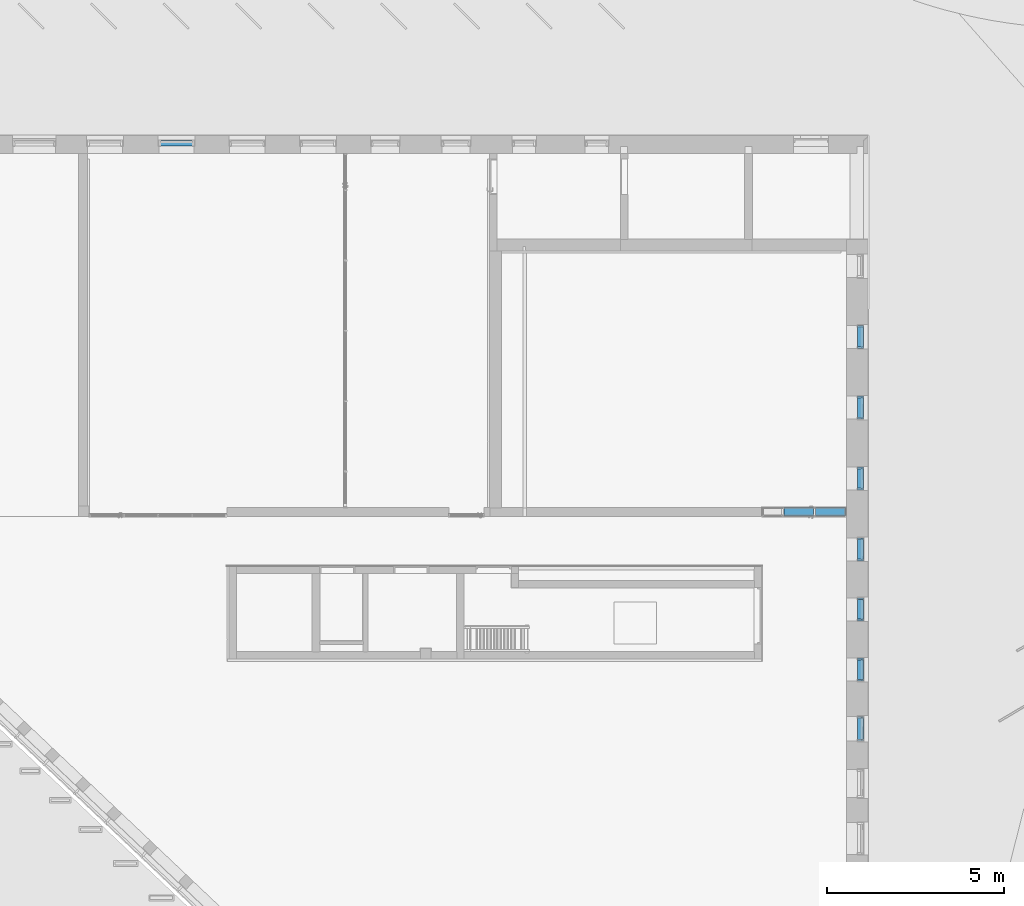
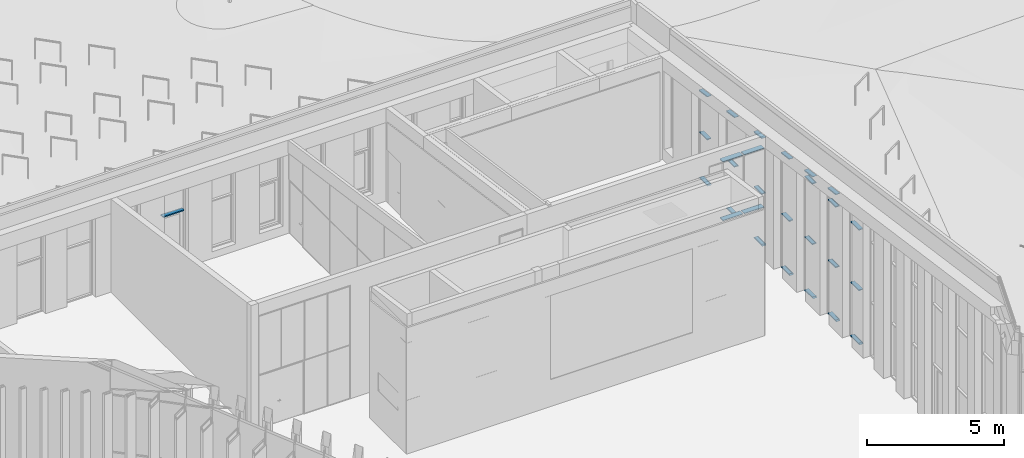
# One storey, part 37 of 246: 28 members, 9 elements without a shape of their own.
"""IFC2X3 building model written with IfcOpenShell, lengths in millimetres."""

from ifc_helpers import new_model, entity, si_unit, converted_unit, derived_unit, money_unit, direction, frame, origin_with_axes, place, context, subcontext, project, spatial, faceted_brep, source, transform, mapped, material, material_list, type_object, element, aggregate, save


model = new_model("IFC2X3")

# Units and contexts
model_context = context("Model", 3, precision=0.01, world=origin_with_axes(), true_north=direction((0.0, 1.0)))
body_context = subcontext(model_context, "Body", "Model", "MODEL_VIEW")
ifc_project = project(units=[si_unit("LENGTHUNIT", "METRE", prefix="MILLI"), si_unit("AREAUNIT", "SQUARE_METRE"), si_unit("VOLUMEUNIT", "CUBIC_METRE"), converted_unit("PLANEANGLEUNIT", "DEGREE", entity("IfcPlaneAngleMeasure", 0.0174532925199), si_unit("PLANEANGLEUNIT", "RADIAN"), dimensions=[0, 0, 0, 0, 0, 0, 0]), si_unit("SOLIDANGLEUNIT", "STERADIAN"), money_unit("EUR"), converted_unit("TIMEUNIT", "Year", entity("IfcTimeMeasure", 31556926.0), si_unit("TIMEUNIT", "SECOND"), dimensions=[0, 0, 1, 0, 0, 0, 0]), si_unit("MASSUNIT", "GRAM", prefix="KILO"), si_unit("THERMODYNAMICTEMPERATUREUNIT", "DEGREE_CELSIUS"), si_unit("LUMINOUSINTENSITYUNIT", "LUMEN"), si_unit("ENERGYUNIT", "JOULE", prefix="MEGA"), derived_unit("THERMALCONDUCTANCEUNIT", [(si_unit("POWERUNIT", "WATT"), 1), (si_unit("LENGTHUNIT", "METRE"), -1), (si_unit("THERMODYNAMICTEMPERATUREUNIT", "KELVIN"), -1)]), derived_unit("SPECIFICHEATCAPACITYUNIT", [(si_unit("ENERGYUNIT", "JOULE"), 1), (si_unit("MASSUNIT", "GRAM", prefix="KILO"), -1), (si_unit("THERMODYNAMICTEMPERATUREUNIT", "KELVIN"), -1)]), derived_unit("MASSDENSITYUNIT", [(si_unit("MASSUNIT", "GRAM", prefix="KILO"), 1), (si_unit("VOLUMEUNIT", "CUBIC_METRE"), -1)])], contexts=[model_context])

# Site, building, storey
site_placement = place(None, origin_with_axes())
site = spatial("IfcSite", under=ifc_project, at=site_placement, Name="L.Koidula tn 11b", CompositionType="ELEMENT")
building_placement = place(site_placement, origin_with_axes())
building = spatial("IfcBuilding", under=site, at=building_placement, Name="Rakvere Riigigümnaasium", CompositionType="ELEMENT")
storey_placement = place(building_placement, origin_with_axes())
storey = spatial("IfcBuildingStorey", under=building, at=storey_placement, Name="1.korrus 0,00", CompositionType="ELEMENT", Elevation=0.0)

# Curtain wall, members
curtain_wall_type = type_object("IfcCurtainWallType", Name="Curtain Wall Type", PredefinedType="NOTDEFINED")
curtain_wall_1_placement = place(storey_placement, frame((47433.9999935, 57020.45466, -7.96066081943e-05), z_axis=(0.0, 0.0, 1.0), x_axis=(1.0, 0.0, 0.0)))
curtain_wall_1 = element("IfcCurtainWall", 1, at=curtain_wall_1_placement, inside=storey, type_object=curtain_wall_type, Name="KLF-07-08")
ifc_material_1 = material(Name="Alumiiniumprofiil (RAL 7021)")
member_type_1 = type_object("IfcMemberType", Name="Transom Frame 50 x 170", PredefinedType="MULLION")
shared_shape_1 = source(origin_with_axes(), body_context, "Body", "Brep", [
    faceted_brep([(12.0, -26.0, 599.999961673), (12.0, 26.0, 599.999961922), (25.0, 26.0, 599.999961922), (25.0, 46.0, 599.999962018), (-25.0, 46.0, 599.999962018), (-25.0, 26.0, 599.999961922), (-12.0, 26.0, 599.999961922), (-12.0, -26.0, 599.999961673), (-25.0, -26.0, 599.999961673), (-25.0, -124.0, 599.999961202), (25.0, -124.0, 599.999961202), (25.0, -26.0, 599.999961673), (12.0, -26.0, 50.0), (12.0, 26.0, 50.0), (25.0, 26.0, 50.0), (25.0, 46.0, 50.0), (-25.0, 46.0, 50.0), (-25.0, 26.0, 50.0), (-12.0, 26.0, 50.0), (-12.0, -26.0, 50.0), (-25.0, -26.0, 50.0), (-25.0, -124.0, 50.0), (25.0, -124.0, 50.0), (25.0, -26.0, 50.0)], [[[0, 1, 2, 3, 4, 5, 6, 7, 8, 9, 10, 11]], [[0, 12, 13, 1]], [[1, 13, 14, 2]], [[14, 15, 3, 2]], [[4, 3, 15, 16]], [[17, 5, 4, 16]], [[5, 17, 18, 6]], [[7, 6, 18, 19]], [[8, 7, 19, 20]], [[8, 20, 21, 9]], [[10, 9, 21, 22]], [[11, 10, 22, 23]], [[11, 23, 12, 0]], [[13, 12, 23, 22, 21, 20, 19, 18, 17, 16, 15, 14]]]),
])
member_1_placement = place(curtain_wall_1_placement, frame((0.0, 324.999985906, 5100.00007961), z_axis=(0.0, -1.0, 0.0), x_axis=(0.0, 0.0, 1.0)))
member_1 = element("IfcMember", 2, at=member_1_placement, type_object=member_type_1, material=ifc_material_1, Name="KLF-07-32-Profiilid", ObjectType="MULLION", context=body_context, shape_type="MappedRepresentation", body=[
    mapped(shared_shape_1, transform((0.0, 0.0, 0.0), x_axis=(-1.0, 0.0, 0.0), y_axis=(0.0, -1.0, 0.0), z_axis=(0.0, 0.0, 1.0))),
])
member_2_placement = place(curtain_wall_1_placement, frame((0.0, 324.999985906, 2400.00007961), z_axis=(0.0, -1.0, 0.0), x_axis=(0.0, 0.0, 1.0)))
member_2 = element("IfcMember", 3, at=member_2_placement, type_object=member_type_1, material=ifc_material_1, Name="KLF-07-33-Profiilid", ObjectType="MULLION", context=body_context, shape_type="MappedRepresentation", body=[
    mapped(shared_shape_1, transform((0.0, 0.0, 0.0), x_axis=(-1.0, 0.0, 0.0), y_axis=(0.0, -1.0, 0.0), z_axis=(0.0, 0.0, 1.0))),
])

curtain_wall_2_placement = place(storey_placement, frame((47433.9999935, 58720.4546292, -7.96830551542e-05), z_axis=(0.0, 0.0, 1.0), x_axis=(1.0, 0.0, 0.0)))
curtain_wall_2 = element("IfcCurtainWall", 4, at=curtain_wall_2_placement, inside=storey, type_object=curtain_wall_type, Name="KLF-07-09")
member_3_placement = place(curtain_wall_2_placement, frame((0.0, 325.00004233, 5100.00007968), z_axis=(0.0, -1.0, 0.0), x_axis=(0.0, 0.0, 1.0)))
member_3 = element("IfcMember", 5, at=member_3_placement, type_object=member_type_1, material=ifc_material_1, Name="KLF-07-23_Profiilid", ObjectType="MULLION", context=body_context, shape_type="MappedRepresentation", body=[
    mapped(shared_shape_1, transform((0.0, 0.0, 0.0), x_axis=(-1.0, 0.0, 0.0), y_axis=(0.0, -1.0, 0.0), z_axis=(0.0, 0.0, 1.0))),
])
member_4_placement = place(curtain_wall_2_placement, frame((0.0, 325.00004233, 2400.00007968), z_axis=(0.0, -1.0, 0.0), x_axis=(0.0, 0.0, 1.0)))
member_4 = element("IfcMember", 6, at=member_4_placement, type_object=member_type_1, material=ifc_material_1, Name="KLF-07-24_Profiilid", ObjectType="MULLION", context=body_context, shape_type="MappedRepresentation", body=[
    mapped(shared_shape_1, transform((0.0, 0.0, 0.0), x_axis=(-1.0, 0.0, 0.0), y_axis=(0.0, -1.0, 0.0), z_axis=(0.0, 0.0, 1.0))),
])

# Curtain wall, member
curtain_wall_3_placement = place(storey_placement, frame((47434.0004775, 60420.4546099, 0.0), z_axis=(0.0, 0.0, 1.0), x_axis=(1.0, 0.0, 0.0)))
curtain_wall_3 = element("IfcCurtainWall", 7, at=curtain_wall_3_placement, inside=storey, type_object=curtain_wall_type, Name="KLF-07-10")
member_5_placement = place(curtain_wall_3_placement, frame((0.0, 325.000019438, 2400.0), z_axis=(0.0, -1.0, 0.0), x_axis=(0.0, 0.0, 1.0)))
member_5 = element("IfcMember", 8, at=member_5_placement, type_object=member_type_1, material=ifc_material_1, Name="KLF-07-20-Profiilid", ObjectType="MULLION", context=body_context, shape_type="MappedRepresentation", body=[
    mapped(shared_shape_1, transform((0.0, 0.0, 0.0), x_axis=(-1.0, 0.0, 0.0), y_axis=(0.0, -1.0, 0.0), z_axis=(0.0, 0.0, 1.0))),
])

curtain_wall_4_placement = place(storey_placement, frame((47433.9999935, 62420.4545024, 99.9999847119), z_axis=(0.0, 0.0, 1.0), x_axis=(1.0, 0.0, 0.0)))
curtain_wall_4 = element("IfcCurtainWall", 9, at=curtain_wall_4_placement, inside=storey, type_object=curtain_wall_type, Name="KLF-07-11")
member_6_placement = place(curtain_wall_4_placement, frame((0.0, 325.000174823, 2300.00001529), z_axis=(0.0, -1.0, 0.0), x_axis=(0.0, 0.0, 1.0)))
member_6 = element("IfcMember", 10, at=member_6_placement, type_object=member_type_1, material=ifc_material_1, Name="KLF-07-21-Profiilid", ObjectType="MULLION", context=body_context, shape_type="MappedRepresentation", body=[
    mapped(shared_shape_1, transform((0.0, 0.0, 0.0), x_axis=(-1.0, 0.0, 0.0), y_axis=(0.0, -1.0, 0.0), z_axis=(0.0, 0.0, 1.0))),
])

curtain_wall_5_placement = place(storey_placement, frame((47433.9999935, 64420.454563, 200.0), z_axis=(0.0, 0.0, 1.0), x_axis=(1.0, 0.0, 0.0)))
curtain_wall_5 = element("IfcCurtainWall", 11, at=curtain_wall_5_placement, inside=storey, type_object=curtain_wall_type, Name="KLF-07-12")
member_7_placement = place(curtain_wall_5_placement, frame((0.0, 325.000196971, 2200.0), z_axis=(0.0, -1.0, 0.0), x_axis=(0.0, 0.0, 1.0)))
member_7 = element("IfcMember", 12, at=member_7_placement, type_object=member_type_1, material=ifc_material_1, Name="KLF-07-29-Profiilid", ObjectType="MULLION", context=body_context, shape_type="MappedRepresentation", body=[
    mapped(shared_shape_1, transform((0.0, 0.0, 0.0), x_axis=(-1.0, 0.0, 0.0), y_axis=(0.0, -1.0, 0.0), z_axis=(0.0, 0.0, 1.0))),
])

curtain_wall_6_placement = place(storey_placement, frame((47433.9999935, 66420.454682, 350.000073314), z_axis=(0.0, 0.0, 1.0), x_axis=(1.0, 0.0, 0.0)))
curtain_wall_6 = element("IfcCurtainWall", 13, at=curtain_wall_6_placement, inside=storey, type_object=curtain_wall_type, Name="KLF-07-13")
member_8_placement = place(curtain_wall_6_placement, frame((0.0, 325.000051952, 2049.99992669), z_axis=(0.0, -1.0, 0.0), x_axis=(0.0, 0.0, 1.0)))
member_8 = element("IfcMember", 14, at=member_8_placement, type_object=member_type_1, material=ifc_material_1, Name="KLF-07-30-Profiilid", ObjectType="MULLION", context=body_context, shape_type="MappedRepresentation", body=[
    mapped(shared_shape_1, transform((0.0, 0.0, 0.0), x_axis=(-1.0, 0.0, 0.0), y_axis=(0.0, -1.0, 0.0), z_axis=(0.0, 0.0, 1.0))),
])

# Curtain wall, members
curtain_wall_7_placement = place(storey_placement, frame((47433.9999935, 55350.4459233, 0.0), z_axis=(0.0, 0.0, 1.0), x_axis=(1.0, 0.0, 0.0)))
curtain_wall_7 = element("IfcCurtainWall", 15, at=curtain_wall_7_placement, inside=storey, type_object=curtain_wall_type, Name="KLF-07-07")
shared_shape_2 = source(origin_with_axes(), body_context, "Body", "Brep", [
    faceted_brep([(12.0, -26.0, 650.000041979), (12.0, 26.0, 650.000042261), (25.0, 26.0, 650.000042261), (25.0, 46.0, 650.00004237), (-25.0, 46.0, 650.00004237), (-25.0, 26.0, 650.000042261), (-12.0, 26.0, 650.000042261), (-12.0, -26.0, 650.000041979), (-25.0, -26.0, 650.000041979), (-25.0, -124.0, 650.000041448), (25.0, -124.0, 650.000041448), (25.0, -26.0, 650.000041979), (12.0, -26.0, 50.0), (12.0, 26.0, 50.0), (25.0, 26.0, 50.0), (25.0, 46.0, 50.0), (-25.0, 46.0, 50.0), (-25.0, 26.0, 50.0), (-12.0, 26.0, 50.0), (-12.0, -26.0, 50.0), (-25.0, -26.0, 50.0), (-25.0, -124.0, 50.0), (25.0, -124.0, 50.0), (25.0, -26.0, 50.0)], [[[0, 1, 2, 3, 4, 5, 6, 7, 8, 9, 10, 11]], [[0, 12, 13, 1]], [[1, 13, 14, 2]], [[14, 15, 3, 2]], [[4, 3, 15, 16]], [[17, 5, 4, 16]], [[5, 17, 18, 6]], [[7, 6, 18, 19]], [[8, 7, 19, 20]], [[8, 20, 21, 9]], [[10, 9, 21, 22]], [[11, 10, 22, 23]], [[11, 23, 12, 0]], [[13, 12, 23, 22, 21, 20, 19, 18, 17, 16, 15, 14]]]),
])
member_9_placement = place(curtain_wall_7_placement, frame((0.0, 350.000036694, 5100.0), z_axis=(0.0, -1.0, 0.0), x_axis=(0.0, 0.0, 1.0)))
member_9 = element("IfcMember", 16, at=member_9_placement, type_object=member_type_1, material=ifc_material_1, Name="KLF-07-31-Profiilid", ObjectType="MULLION", context=body_context, shape_type="MappedRepresentation", body=[
    mapped(shared_shape_2, transform((0.0, 0.0, 0.0), x_axis=(-1.0, 0.0, 0.0), y_axis=(0.0, -1.0, 0.0), z_axis=(0.0, 0.0, 1.0))),
])
member_10_placement = place(curtain_wall_7_placement, frame((0.0, 350.000036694, 2400.0), z_axis=(0.0, -1.0, 0.0), x_axis=(0.0, 0.0, 1.0)))
member_10 = element("IfcMember", 17, at=member_10_placement, type_object=member_type_1, material=ifc_material_1, Name="KLF-07-32-Profiilid", ObjectType="MULLION", context=body_context, shape_type="MappedRepresentation", body=[
    mapped(shared_shape_2, transform((0.0, 0.0, 0.0), x_axis=(-1.0, 0.0, 0.0), y_axis=(0.0, -1.0, 0.0), z_axis=(0.0, 0.0, 1.0))),
])

# Member
member_type_2 = type_object("IfcMemberType", Name="Boundary Frame 50 x 170", PredefinedType="MULLION")
shared_shape_3 = source(origin_with_axes(), body_context, "Body", "Brep", [
    faceted_brep([(-37.0, -26.0, 612.999970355), (-50.0, -26.0, 599.999970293), (-50.0, -124.0, 599.999970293), (0.0, -124.0, 649.999970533), (0.0, 46.0, 649.999970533), (-50.0, 46.0, 599.999970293), (-50.0, 26.0, 599.999970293), (-37.0, 26.0, 612.999970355), (-37.0, -26.0, 37.0), (-50.0, -26.0, 50.0), (-50.0, -124.0, 50.0), (0.0, -124.0, 0.0), (0.0, 46.0, 0.0), (-50.0, 46.0, 50.0), (-50.0, 26.0, 50.0), (-37.0, 26.0, 37.0)], [[[0, 1, 2, 3, 4, 5, 6, 7]], [[0, 8, 9, 1]], [[9, 10, 2, 1]], [[2, 10, 11, 3]], [[3, 11, 12, 4]], [[4, 12, 13, 5]], [[6, 5, 13, 14]], [[14, 15, 7, 6]], [[7, 15, 8, 0]], [[8, 15, 14, 13, 12, 11, 10, 9]]]),
])
member_11_placement = place(curtain_wall_1_placement, frame((0.0, 324.999985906, 0.0), z_axis=(0.0, -1.0, 0.0), x_axis=(0.0, 0.0, 1.0)))
member_11 = element("IfcMember", 18, at=member_11_placement, type_object=member_type_2, material=ifc_material_1, Name="KLF-07-76-Profiilid", ObjectType="MULLION", context=body_context, shape_type="MappedRepresentation", body=[
    mapped(shared_shape_3, transform((0.0, 0.0, 0.0), x_axis=(-1.0, 0.0, 0.0), y_axis=(0.0, -1.0, 0.0), z_axis=(0.0, 0.0, 1.0))),
])

member_12_placement = place(curtain_wall_2_placement, frame((0.0, 325.00004233, 0.0), z_axis=(0.0, -1.0, 0.0), x_axis=(0.0, 0.0, 1.0)))
member_12 = element("IfcMember", 19, at=member_12_placement, type_object=member_type_2, material=ifc_material_1, Name="KLF-07-77_Profiilid", ObjectType="MULLION", context=body_context, shape_type="MappedRepresentation", body=[
    mapped(shared_shape_3, transform((0.0, 0.0, 0.0), x_axis=(-1.0, 0.0, 0.0), y_axis=(0.0, -1.0, 0.0), z_axis=(0.0, 0.0, 1.0))),
])

member_13_placement = place(curtain_wall_3_placement, frame((0.0, 325.000096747, 0.0), z_axis=(0.0, -1.0, 0.0), x_axis=(0.0, 0.0, 1.0)))
member_13 = element("IfcMember", 20, at=member_13_placement, type_object=member_type_2, material=ifc_material_1, Name="KLF-07-69-Profiilid", ObjectType="MULLION", context=body_context, shape_type="MappedRepresentation", body=[
    mapped(shared_shape_3, transform((0.0, 0.0, 0.0), x_axis=(-1.0, 0.0, 0.0), y_axis=(0.0, -1.0, 0.0), z_axis=(0.0, 0.0, 1.0))),
])

member_14_placement = place(curtain_wall_4_placement, frame((0.0, 325.000174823, 0.0), z_axis=(0.0, -1.0, 0.0), x_axis=(0.0, 0.0, 1.0)))
member_14 = element("IfcMember", 21, at=member_14_placement, type_object=member_type_2, material=ifc_material_1, Name="KLF-07-70-Profiilid", ObjectType="MULLION", context=body_context, shape_type="MappedRepresentation", body=[
    mapped(shared_shape_3, transform((0.0, 0.0, 0.0), x_axis=(-1.0, 0.0, 0.0), y_axis=(0.0, -1.0, 0.0), z_axis=(0.0, 0.0, 1.0))),
])

member_15_placement = place(curtain_wall_5_placement, frame((0.0, 325.000196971, 0.0), z_axis=(0.0, -1.0, 0.0), x_axis=(0.0, 0.0, 1.0)))
member_15 = element("IfcMember", 22, at=member_15_placement, type_object=member_type_2, material=ifc_material_1, Name="KLF-07-77-Profiilid", ObjectType="MULLION", context=body_context, shape_type="MappedRepresentation", body=[
    mapped(shared_shape_3, transform((0.0, 0.0, 0.0), x_axis=(-1.0, 0.0, 0.0), y_axis=(0.0, -1.0, 0.0), z_axis=(0.0, 0.0, 1.0))),
])

member_16_placement = place(curtain_wall_6_placement, frame((0.0, 325.000111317, -7.33137830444e-05), z_axis=(0.0, -1.0, 0.0), x_axis=(0.0, 0.0, 1.0)))
member_16 = element("IfcMember", 23, at=member_16_placement, type_object=member_type_2, material=ifc_material_1, Name="KLF-07-71-Profiilid", ObjectType="MULLION", context=body_context, shape_type="MappedRepresentation", body=[
    mapped(shared_shape_3, transform((0.0, 0.0, 0.0), x_axis=(-1.0, 0.0, 0.0), y_axis=(0.0, -1.0, 0.0), z_axis=(0.0, 0.0, 1.0))),
])

shared_shape_4 = source(origin_with_axes(), body_context, "Body", "Brep", [
    faceted_brep([(-37.0, -26.0, 663.000011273), (-50.0, -26.0, 650.000011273), (-50.0, -124.0, 650.000011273), (0.0, -124.0, 700.000011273), (0.0, 46.0, 700.000011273), (-50.0, 46.0, 650.000011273), (-50.0, 26.0, 650.000011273), (-37.0, 26.0, 663.000011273), (-37.0, -26.0, 37.0000013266), (-50.0, -26.0, 50.0000017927), (-50.0, -124.0, 50.0000017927), (0.0, -124.0, 0.0), (0.0, 46.0, 0.0), (-50.0, 46.0, 50.0000017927), (-50.0, 26.0, 50.0000017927), (-37.0, 26.0, 37.0000013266)], [[[0, 1, 2, 3, 4, 5, 6, 7]], [[0, 8, 9, 1]], [[9, 10, 2, 1]], [[2, 10, 11, 3]], [[3, 11, 12, 4]], [[4, 12, 13, 5]], [[6, 5, 13, 14]], [[14, 15, 7, 6]], [[7, 15, 8, 0]], [[8, 15, 14, 13, 12, 11, 10, 9]]]),
])
member_17_placement = place(curtain_wall_7_placement, frame((0.0, 350.000036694, 0.0), z_axis=(0.0, -1.0, 0.0), x_axis=(0.0, 0.0, 1.0)))
member_17 = element("IfcMember", 24, at=member_17_placement, type_object=member_type_2, material=ifc_material_1, Name="KLF-07-74-Profiilid", ObjectType="MULLION", context=body_context, shape_type="MappedRepresentation", body=[
    mapped(shared_shape_4, transform((0.0, 0.0, 0.0), x_axis=(-1.0, 0.0, 0.0), y_axis=(0.0, -1.0, 0.0), z_axis=(0.0, 0.0, 1.0))),
])

aggregate(curtain_wall_7, [member_9, member_10, member_17])

shared_shape_5 = source(origin_with_axes(), body_context, "Body", "Brep", [
    faceted_brep([(-37.0, -26.0, 624.449446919), (-50.0, -26.0, 613.169206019), (-50.0, -124.0, 613.169206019), (0.0, -124.0, 656.554747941), (0.0, 46.0, 656.554747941), (-50.0, 46.0, 613.169206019), (-50.0, 26.0, 613.169206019), (-37.0, 26.0, 624.449446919), (-37.0, -26.0, 42.640934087), (-50.0, -26.0, 57.6228839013), (-50.0, -124.0, 57.6228839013), (0.0, -124.0, 0.0), (0.0, 46.0, 0.0), (-50.0, 46.0, 57.6228839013), (-50.0, 26.0, 57.6228839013), (-37.0, 26.0, 42.640934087)], [[[0, 1, 2, 3, 4, 5, 6, 7]], [[0, 8, 9, 1]], [[9, 10, 2, 1]], [[2, 10, 11, 3]], [[3, 11, 12, 4]], [[4, 12, 13, 5]], [[6, 5, 13, 14]], [[14, 15, 7, 6]], [[7, 15, 8, 0]], [[8, 15, 14, 13, 12, 11, 10, 9]]]),
])
member_18_placement = place(curtain_wall_1_placement, frame((0.0, -324.999990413, 5696.05105915), z_axis=(0.0, 0.990016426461, -0.140952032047), x_axis=(0.0, -0.140952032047, -0.990016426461)))
member_18 = element("IfcMember", 25, at=member_18_placement, type_object=member_type_2, material=ifc_material_1, Name="KLF-07-80-Profiilid", ObjectType="MULLION", context=body_context, shape_type="MappedRepresentation", body=[
    mapped(shared_shape_5, transform((0.0, 0.0, 0.0), x_axis=(-1.0, 0.0, 0.0), y_axis=(0.0, -1.0, 0.0), z_axis=(0.0, 0.0, 1.0))),
])

aggregate(curtain_wall_1, [member_1, member_2, member_11, member_18])

member_19_placement = place(curtain_wall_2_placement, frame((0.0, -324.999958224, 5454.01620114), z_axis=(0.0, 0.990016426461, -0.140952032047), x_axis=(0.0, -0.140952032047, -0.990016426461)))
member_19 = element("IfcMember", 26, at=member_19_placement, type_object=member_type_2, material=ifc_material_1, Name="KLF-07-81_Profiilid", ObjectType="MULLION", context=body_context, shape_type="MappedRepresentation", body=[
    mapped(shared_shape_5, transform((0.0, 0.0, 0.0), x_axis=(-1.0, 0.0, 0.0), y_axis=(0.0, -1.0, 0.0), z_axis=(0.0, 0.0, 1.0))),
])

aggregate(curtain_wall_2, [member_3, member_4, member_12, member_19])

member_20_placement = place(curtain_wall_3_placement, frame((0.0, -325.000020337, 5211.98121766), z_axis=(0.0, 0.990016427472, -0.140952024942), x_axis=(0.0, -0.140952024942, -0.990016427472)))
member_20 = element("IfcMember", 27, at=member_20_placement, type_object=member_type_2, material=ifc_material_1, Name="KLF-07-72-Profiilid", ObjectType="MULLION", context=body_context, shape_type="MappedRepresentation", body=[
    mapped(shared_shape_5, transform((0.0, 0.0, 0.0), x_axis=(-1.0, 0.0, 0.0), y_axis=(0.0, -1.0, 0.0), z_axis=(0.0, 0.0, 1.0))),
])

aggregate(curtain_wall_3, [member_5, member_13, member_20])

member_21_placement = place(curtain_wall_6_placement, frame((0.0, -324.999940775, 4007.74026286), z_axis=(0.0, 0.99001642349, -0.140952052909), x_axis=(0.0, -0.140952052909, -0.99001642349)))
member_21 = element("IfcMember", 28, at=member_21_placement, type_object=member_type_2, material=ifc_material_1, Name="KLF-07-74-Profiilid", ObjectType="MULLION", context=body_context, shape_type="MappedRepresentation", body=[
    mapped(shared_shape_5, transform((0.0, 0.0, 0.0), x_axis=(-1.0, 0.0, 0.0), y_axis=(0.0, -1.0, 0.0), z_axis=(0.0, 0.0, 1.0))),
])

aggregate(curtain_wall_6, [member_8, member_16, member_21])

# Curtain wall, member
curtain_wall_8_placement = place(storey_placement, frame((28069.5354311, 71934.4519938, 200.0), z_axis=(0.0, 0.0, 1.0), x_axis=(1.0, 0.0, 0.0)))
curtain_wall_8 = element("IfcCurtainWall", 29, at=curtain_wall_8_placement, inside=storey, type_object=curtain_wall_type, Name="KLF-08-04")
shared_shape_6 = source(origin_with_axes(), body_context, "Body", "Brep", [
    faceted_brep([(12.0, -26.0, 949.999979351), (12.0, 26.0, 949.999981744), (25.0, 26.0, 949.999981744), (25.0, 46.0, 949.999982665), (-25.0, 46.0, 949.999982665), (-25.0, 26.0, 949.999981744), (-12.0, 26.0, 949.999981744), (-12.0, -26.0, 949.999979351), (-25.0, -26.0, 949.999979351), (-25.0, -124.0, 949.999974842), (25.0, -124.0, 949.999974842), (25.0, -26.0, 949.999979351), (12.0, -26.0, 50.0), (12.0, 26.0, 50.0), (25.0, 26.0, 50.0), (25.0, 46.0, 50.0), (-25.0, 46.0, 50.0), (-25.0, 26.0, 50.0), (-12.0, 26.0, 50.0), (-12.0, -26.0, 50.0), (-25.0, -26.0, 50.0), (-25.0, -124.0, 50.0), (25.0, -124.0, 50.0), (25.0, -26.0, 50.0)], [[[0, 1, 2, 3, 4, 5, 6, 7, 8, 9, 10, 11]], [[0, 12, 13, 1]], [[1, 13, 14, 2]], [[14, 15, 3, 2]], [[4, 3, 15, 16]], [[17, 5, 4, 16]], [[5, 17, 18, 6]], [[7, 6, 18, 19]], [[8, 7, 19, 20]], [[8, 20, 21, 9]], [[10, 9, 21, 22]], [[11, 10, 22, 23]], [[11, 23, 12, 0]], [[13, 12, 23, 22, 21, 20, 19, 18, 17, 16, 15, 14]]]),
])
member_22_placement = place(curtain_wall_8_placement, frame((-500.000022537, 0.0, 2200.00007713), z_axis=(1.0, 0.0, 0.0), x_axis=(0.0, 0.0, 1.0)))
member_22 = element("IfcMember", 30, at=member_22_placement, type_object=member_type_1, material=ifc_material_1, Name="KLF-08-43-Profiilid", ObjectType="MULLION", context=body_context, shape_type="MappedRepresentation", body=[
    mapped(shared_shape_6, transform((0.0, 0.0, 0.0), x_axis=(-1.0, 0.0, 0.0), y_axis=(0.0, -1.0, 0.0), z_axis=(0.0, 0.0, 1.0))),
])
aggregate(curtain_wall_8, [member_22])

# Member
shared_shape_7 = source(origin_with_axes(), body_context, "Body", "Brep", [
    faceted_brep([(-37.0, -26.0, 624.449762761), (-50.0, -26.0, 613.169521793), (-50.0, -124.0, 613.169521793), (0.0, -124.0, 656.555063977), (0.0, 46.0, 656.555063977), (-50.0, 46.0, 613.169521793), (-50.0, 26.0, 613.169521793), (-37.0, 26.0, 624.449762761), (-37.0, -26.0, 42.6409327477), (-50.0, -26.0, 57.6228820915), (-50.0, -124.0, 57.6228820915), (0.0, -124.0, 0.0), (0.0, 46.0, 0.0), (-50.0, 46.0, 57.6228820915), (-50.0, 26.0, 57.6228820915), (-37.0, 26.0, 42.6409327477)], [[[0, 1, 2, 3, 4, 5, 6, 7]], [[0, 8, 9, 1]], [[9, 10, 2, 1]], [[2, 10, 11, 3]], [[3, 11, 12, 4]], [[4, 12, 13, 5]], [[6, 5, 13, 14]], [[14, 15, 7, 6]], [[7, 15, 8, 0]], [[8, 15, 14, 13, 12, 11, 10, 9]]]),
])
member_23_placement = place(curtain_wall_4_placement, frame((0.0, -325.000143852, 4827.23428948), z_axis=(0.0, 0.990016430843, -0.140952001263), x_axis=(0.0, -0.140952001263, -0.990016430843)))
member_23 = element("IfcMember", 31, at=member_23_placement, type_object=member_type_2, material=ifc_material_1, Name="KLF-07-73-Profiilid", ObjectType="MULLION", context=body_context, shape_type="MappedRepresentation", body=[
    mapped(shared_shape_7, transform((0.0, 0.0, 0.0), x_axis=(-1.0, 0.0, 0.0), y_axis=(0.0, -1.0, 0.0), z_axis=(0.0, 0.0, 1.0))),
])

aggregate(curtain_wall_4, [member_6, member_14, member_23])

member_24_placement = place(curtain_wall_5_placement, frame((0.0, -325.00018437, 4442.48743533), z_axis=(0.0, 0.990016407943, -0.140952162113), x_axis=(0.0, -0.140952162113, -0.990016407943)))
member_24 = element("IfcMember", 32, at=member_24_placement, type_object=member_type_2, material=ifc_material_1, Name="KLF-07-80-Profiilid", ObjectType="MULLION", context=body_context, shape_type="MappedRepresentation", body=[
    mapped(shared_shape_7, transform((0.0, 0.0, 0.0), x_axis=(-1.0, 0.0, 0.0), y_axis=(0.0, -1.0, 0.0), z_axis=(0.0, 0.0, 1.0))),
])

aggregate(curtain_wall_5, [member_7, member_15, member_24])

# Curtain wall, members
curtain_wall_9_placement = place(storey_placement, frame((46549.9999923, 61580.5357918, -4.47035262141e-05), z_axis=(0.0, 0.0, 1.0), x_axis=(1.0, 0.0, 0.0)))
curtain_wall_9 = element("IfcCurtainWall", 33, at=curtain_wall_9_placement, inside=storey, type_object=curtain_wall_type, Name="SKLF-05")
ifc_material_2 = material(Name="Puit")
ifc_material_3 = material(Name="Klaasvill")
ifc_material_4 = material(Name="Teras RAL7012")
ifc_material_list = material_list([ifc_material_2, ifc_material_3, ifc_material_4])
member_type_3 = type_object("IfcMemberType", Name="Siseklaasfassaad - Servaraam-2_30x26 30 x 14", PredefinedType="MULLION")
shared_shape_8 = source(origin_with_axes(), body_context, "Body", "Brep", [
    faceted_brep([(0.0, 5.99999883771, 30.0000193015), (0.0, 5.99999883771, 869.999980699), (0.0, 214.0, 869.999980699), (0.0, 214.0, 30.0000193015), (30.0000198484, 5.99999883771, 30.0000193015), (30.0000198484, 5.99999883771, 869.999980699), (30.0000198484, 214.0, 869.999980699), (30.0000198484, 214.0, 30.0000193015)], [[[0, 1, 2, 3]], [[4, 5, 1, 0]], [[2, 1, 5, 6]], [[3, 2, 6, 7]], [[3, 7, 4, 0]], [[7, 6, 5, 4]]]),
    faceted_brep([(2.00001916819, -16.999999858, 30.0000193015), (2.00001916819, -16.999999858, 869.999980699), (2.00001916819, 3.01614428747, 869.999980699), (2.00001916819, 3.01614428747, 30.0000193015), (8.35001923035, -16.999999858, 30.0000193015), (8.35001923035, -16.999999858, 869.999980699), (8.35001923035, 3.01614428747, 869.999980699), (8.35001923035, 3.01614428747, 30.0000193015)], [[[0, 1, 2, 3]], [[4, 5, 1, 0]], [[2, 1, 5, 6]], [[3, 2, 6, 7]], [[3, 7, 4, 0]], [[7, 6, 5, 4]]]),
    faceted_brep([(25.004489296, 1.03075035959, 30.0000193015), (25.004489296, 1.03075035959, 869.999980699), (24.987414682, 3.01614444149, 869.999980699), (24.987414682, 3.01614444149, 30.0000193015), (25.742237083, 0.293002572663, 30.0000193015), (25.742237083, 0.293002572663, 869.999980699), (26.7500193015, 0.0229681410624, 869.999980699), (27.75780152, 0.293002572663, 869.999980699), (28.4955493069, 1.03075035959, 869.999980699), (28.7655837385, 2.03853257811, 869.999980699), (28.5126239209, 3.01614444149, 869.999980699), (28.5126239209, 3.01614444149, 30.0000193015), (28.7655837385, 2.03853257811, 30.0000193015), (28.4955493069, 1.03075035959, 30.0000193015), (27.75780152, 0.293002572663, 30.0000193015), (26.7500193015, 0.0229681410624, 30.0000193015)], [[[0, 1, 2, 3]], [[4, 5, 1, 0]], [[2, 1, 5, 6, 7, 8, 9, 10]], [[3, 2, 10, 11]], [[3, 11, 12, 13, 14, 15, 4, 0]], [[15, 6, 5, 4]], [[14, 7, 6, 15]], [[13, 8, 7, 14]], [[12, 9, 8, 13]], [[11, 10, 9, 12]]]),
    faceted_brep([(30.0000193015, -20.0, 30.0000193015), (30.0000193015, -20.0, 869.999980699), (0.0, -20.0, 869.999980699), (0.0, -20.0, 30.0000193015), (30.0000193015, -17.0, 30.0000193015), (30.0000193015, -17.0, 869.999980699), (8.35001923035, -16.999999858, 869.999980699), (2.00001930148, -17.0, 869.999980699), (2.00001930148, 3.01614444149, 869.999980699), (8.35001923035, 3.01614428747, 869.999980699), (24.987414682, 3.01614444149, 869.999980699), (28.5126239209, 3.01614444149, 869.999980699), (30.0000193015, 3.01614444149, 869.999980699), (30.0000193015, 6.0, 869.999980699), (0.0, 6.0, 869.999980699), (0.0, 6.0, 30.0000193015), (30.0000193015, 6.0, 30.0000193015), (30.0000193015, 3.01614444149, 30.0000193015), (28.5126239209, 3.01614444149, 30.0000193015), (24.987414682, 3.01614444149, 30.0000193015), (8.35001923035, 3.01614428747, 30.0000193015), (2.00001930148, 3.01614444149, 30.0000193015), (2.00001930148, -17.0, 30.0000193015), (8.35001923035, -16.999999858, 30.0000193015)], [[[0, 1, 2, 3]], [[4, 5, 1, 0]], [[2, 1, 5, 6, 7, 8, 9, 10, 11, 12, 13, 14]], [[3, 2, 14, 15]], [[3, 15, 16, 17, 18, 19, 20, 21, 22, 23, 4, 0]], [[23, 6, 5, 4]], [[22, 7, 6, 23]], [[21, 8, 7, 22]], [[20, 9, 8, 21]], [[19, 10, 9, 20]], [[18, 11, 10, 19]], [[17, 12, 11, 18]], [[16, 13, 12, 17]], [[15, 14, 13, 16]]]),
])
member_25_placement = place(curtain_wall_9_placement, frame((-1350.00000119, 0.0, 2400.0000447), z_axis=(1.0, 0.0, 0.0), x_axis=(0.0, 0.0, 1.0)))
member_25 = element("IfcMember", 34, at=member_25_placement, type_object=member_type_3, material=ifc_material_list, Name="P-SKLF-45-raam", ObjectType="MULLION", context=body_context, shape_type="MappedRepresentation", body=[
    mapped(shared_shape_8, transform((0.0, 0.0, 0.0))),
])
member_26_placement = place(curtain_wall_9_placement, frame((-450.000001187, 0.0, 2400.0000447), z_axis=(1.0, 0.0, 0.0), x_axis=(0.0, 0.0, 1.0)))
member_26 = element("IfcMember", 35, at=member_26_placement, type_object=member_type_3, material=ifc_material_list, Name="P-SKLF-48-raam", ObjectType="MULLION", context=body_context, shape_type="MappedRepresentation", body=[
    mapped(shared_shape_8, transform((0.0, 0.0, 0.0))),
])
member_type_4 = type_object("IfcMemberType", Name="Siseklaasfassaad - Ylaraam-kaldus8,1 67 x 14", PredefinedType="MULLION")
shared_shape_9 = source(origin_with_axes(), body_context, "Body", "Brep", [
    faceted_brep([(0.0, 214.0, 30.0000193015), (-30.0000198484, 214.0, 30.0000193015), (-30.0000198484, 214.0, 869.999983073), (0.0, 214.0, 869.999983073), (0.0, 5.99999883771, 30.0000193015), (-37.0034781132, 5.99999883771, 30.0000193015), (-59.602804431, 5.99999883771, 30.0000193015), (-59.602804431, 5.99999883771, 869.999983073), (-37.0034781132, 5.99999883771, 869.999983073), (0.0, 5.99999883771, 869.999983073)], [[[0, 1, 2, 3]], [[1, 0, 4, 5, 6]], [[1, 6, 7, 2]], [[2, 7, 8, 9, 3]], [[4, 0, 3, 9]], [[5, 4, 9, 8]], [[6, 5, 8, 7]]]),
    faceted_brep([(-45.3534990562, -16.9999998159, 30.0000193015), (-39.0034989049, -16.9999998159, 30.0000193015), (-39.0034989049, -16.9999998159, 869.999983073), (-45.3534990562, -16.9999998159, 869.999983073), (-45.3534990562, 3.0161446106, 30.0000193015), (-39.0034989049, 3.0161446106, 30.0000193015), (-39.0034989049, 3.0161446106, 869.999983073), (-45.3534990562, 3.0161446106, 869.999983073)], [[[0, 1, 2, 3]], [[1, 0, 4, 5]], [[1, 5, 6, 2]], [[2, 6, 7, 3]], [[4, 0, 3, 7]], [[5, 4, 7, 6]]]),
    faceted_brep([(-61.7379345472, 2.03853257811, 30.0000193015), (-65.5161036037, 3.01614444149, 30.0000193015), (-65.5161036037, 3.01614444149, 869.999983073), (-61.7379345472, 2.03853257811, 869.999983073), (-62.0079689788, 1.03075035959, 30.0000193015), (-62.7457167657, 0.293002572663, 30.0000193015), (-63.7534989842, 0.0229681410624, 30.0000193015), (-64.7612812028, 0.293002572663, 30.0000193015), (-65.4990289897, 1.03075035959, 30.0000193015), (-65.7690634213, 2.03853257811, 30.0000193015), (-65.7690634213, 2.03853257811, 869.999983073), (-65.4990289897, 1.03075035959, 869.999983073), (-64.7612812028, 0.293002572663, 869.999983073), (-63.7534989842, 0.0229681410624, 869.999983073), (-62.7457167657, 0.293002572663, 869.999983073), (-62.0079689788, 1.03075035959, 869.999983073)], [[[0, 1, 2, 3]], [[1, 0, 4, 5, 6, 7, 8, 9]], [[1, 9, 10, 2]], [[2, 10, 11, 12, 13, 14, 15, 3]], [[4, 0, 3, 15]], [[5, 4, 15, 14]], [[6, 5, 14, 13]], [[7, 6, 13, 12]], [[8, 7, 12, 11]], [[9, 8, 11, 10]]]),
    faceted_brep([(-37.0034792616, -20.0, 30.0000193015), (-37.0034792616, 6.00000005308, 30.0000193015), (-37.0034792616, 6.00000005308, 869.999983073), (-37.0034792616, -20.0, 869.999983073), (-67.0034989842, -20.0, 30.0000193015), (-67.0034989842, -16.9999997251, 30.0000193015), (-45.3534990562, -16.9999998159, 30.0000193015), (-39.0034990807, -16.9999997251, 30.0000193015), (-39.0034990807, 3.01614440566, 30.0000193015), (-45.3534990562, 3.0161446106, 30.0000193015), (-61.9908943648, 3.01614444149, 30.0000193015), (-65.5161036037, 3.01614444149, 30.0000193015), (-67.0034989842, 3.01614440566, 30.0000193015), (-67.0034989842, 6.00000005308, 30.0000193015), (-59.602804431, 5.99999883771, 30.0000193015), (-59.602804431, 5.99999883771, 869.999983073), (-67.0034989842, 6.00000005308, 869.999983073), (-67.0034989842, 3.01614440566, 869.999983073), (-65.5161036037, 3.01614444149, 869.999983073), (-61.9908943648, 3.01614444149, 869.999983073), (-45.3534990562, 3.0161446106, 869.999983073), (-39.0034990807, 3.01614440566, 869.999983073), (-39.0034990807, -16.9999997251, 869.999983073), (-45.3534990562, -16.9999998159, 869.999983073), (-67.0034989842, -16.9999997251, 869.999983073), (-67.0034989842, -20.0, 869.999983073)], [[[0, 1, 2, 3]], [[1, 0, 4, 5, 6, 7, 8, 9, 10, 11, 12, 13, 14]], [[1, 14, 15, 2]], [[2, 15, 16, 17, 18, 19, 20, 21, 22, 23, 24, 25, 3]], [[4, 0, 3, 25]], [[5, 4, 25, 24]], [[6, 5, 24, 23]], [[7, 6, 23, 22]], [[8, 7, 22, 21]], [[9, 8, 21, 20]], [[10, 9, 20, 19]], [[11, 10, 19, 18]], [[12, 11, 18, 17]], [[13, 12, 17, 16]], [[14, 13, 16, 15]]]),
    faceted_brep([(0.0, -20.0, 30.0000193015), (0.0, 4.01614429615, 30.0000193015), (0.0, 4.01614429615, 869.999983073), (0.0, -20.0, 869.999983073), (-37.0034796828, -20.0, 30.0000193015), (-37.0034796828, 6.00000022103, 30.0000193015), (0.0, 6.00000022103, 30.0000193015), (-2.00000022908, 4.01614429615, 30.0000193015), (-35.0034601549, 4.01614429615, 30.0000193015), (-35.0034601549, -17.9999997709, 30.0000193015), (-2.00000022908, -17.9999997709, 30.0000193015), (0.0, 6.00000022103, 869.999983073), (-37.0034796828, 6.00000022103, 869.999983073), (-37.0034796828, -20.0, 869.999983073), (-2.00000022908, 4.01614429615, 869.999983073), (-2.00000022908, -17.9999997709, 869.999983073), (-35.0034601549, -17.9999997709, 869.999983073), (-35.0034601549, 4.01614429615, 869.999983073)], [[[0, 1, 2, 3]], [[1, 0, 4, 5, 6], [7, 8, 9, 10]], [[1, 6, 11, 2]], [[2, 11, 12, 13, 3], [14, 15, 16, 17]], [[4, 0, 3, 13]], [[5, 4, 13, 12]], [[6, 5, 12, 11]], [[8, 7, 14, 17]], [[9, 8, 17, 16]], [[10, 9, 16, 15]], [[7, 10, 15, 14]]]),
])
member_27_placement = place(curtain_wall_9_placement, frame((-450.000001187, 0.0, 5050.0000447), z_axis=(1.0, 0.0, 0.0), x_axis=(0.0, 0.0, 1.0)))
member_27 = element("IfcMember", 36, at=member_27_placement, type_object=member_type_4, material=ifc_material_list, Name="P-SKLF-86-raam", ObjectType="MULLION", context=body_context, shape_type="MappedRepresentation", body=[
    mapped(shared_shape_9, transform((0.0, 0.0, 0.0))),
])
member_28_placement = place(curtain_wall_9_placement, frame((-1350.00000119, 0.0, 5050.0000447), z_axis=(1.0, 0.0, 0.0), x_axis=(0.0, 0.0, 1.0)))
member_28 = element("IfcMember", 37, at=member_28_placement, type_object=member_type_4, material=ifc_material_list, Name="P-SKLF-87-raam", ObjectType="MULLION", context=body_context, shape_type="MappedRepresentation", body=[
    mapped(shared_shape_9, transform((0.0, 0.0, 0.0))),
])
aggregate(curtain_wall_9, [member_25, member_27, member_28, member_26])

save(model, "model.ifc")
